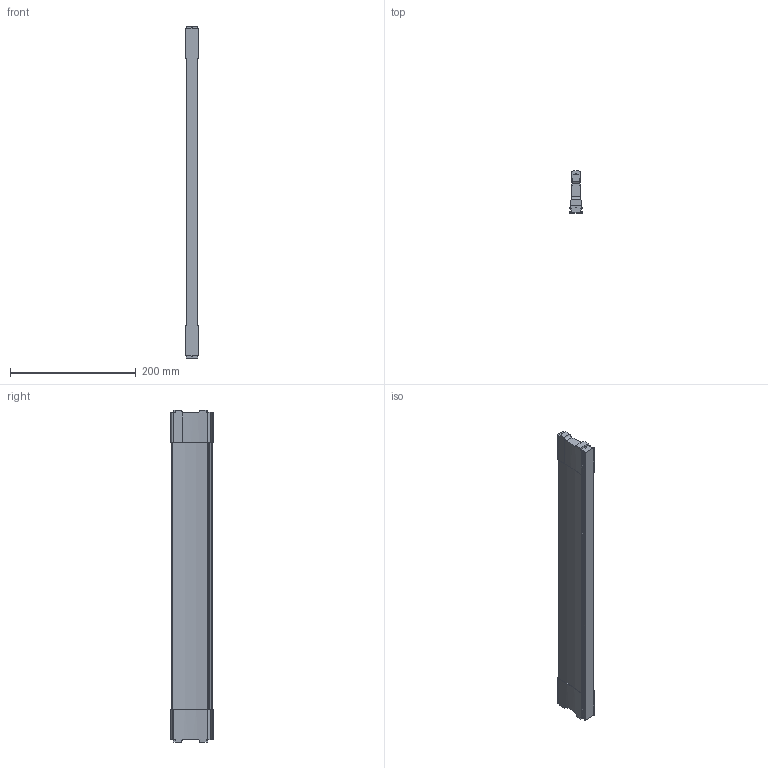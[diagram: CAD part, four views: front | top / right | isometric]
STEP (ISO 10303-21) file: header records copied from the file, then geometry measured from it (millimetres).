
FILE_DESCRIPTION (( 'STEP AP214' ), '1' );
FILE_NAME ('Traverse DWD XP NL550 Mass X518,4.step', '2010-09-21T13:16:42', ( 'grass' ), ( '' ), 'SwSTEP 2.0', 'SolidWorks 2010', '' );
FILE_SCHEMA (( 'AUTOMOTIVE_DESIGN' ));
Length unit declared in the file: millimetre
Products named in the file (1): Traverse DWD XP NL550 Mass X518,4
Bounding box: 21.4 x 67.5 x 527.4 mm (x, y, z)
Volume: 439548.3 mm3; surface area: 91843.4 mm2
Topology: 1 solids, 1 shells, 125 faces, 369 edges, 246 vertices
Faces by surface type: cylinder 68, plane 57
Entity records: 4377 total; most frequent: CARTESIAN_POINT 879, DIRECTION 753, ORIENTED_EDGE 738, EDGE_CURVE 369, AXIS2_PLACEMENT_3D 268, VERTEX_POINT 246, VECTOR 217, LINE 217
